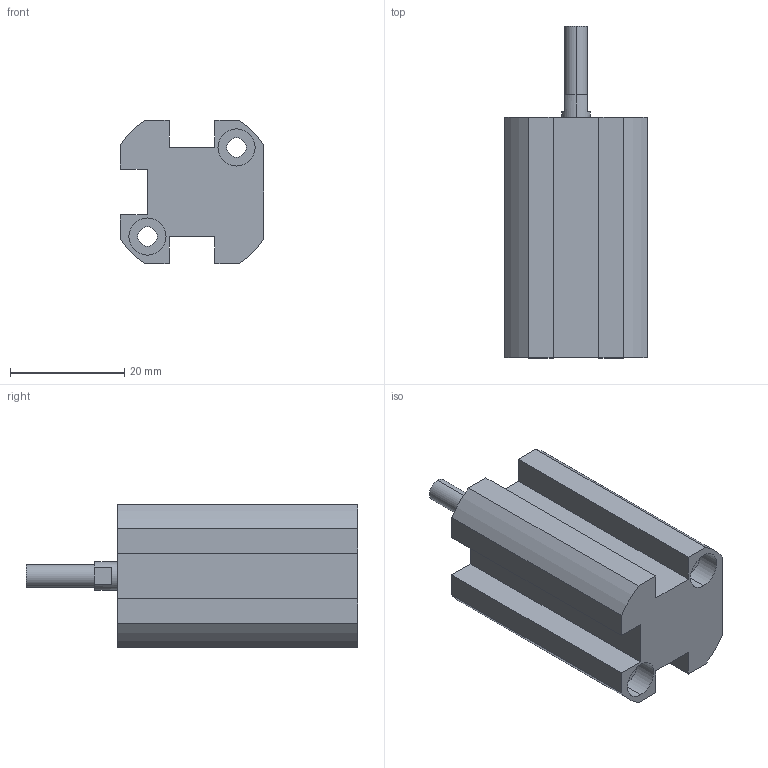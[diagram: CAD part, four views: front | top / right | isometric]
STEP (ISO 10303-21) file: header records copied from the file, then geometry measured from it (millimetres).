
FILE_DESCRIPTION (( 'STEP AP203' ), '1' );
FILE_NAME ('XG#M0-10D-10.STEP', '2016-05-24T02:02:19', ( '' ), ( '' ), 'SwSTEP 2.0', 'SolidWorks 2014', '' );
FILE_SCHEMA (( 'CONFIG_CONTROL_DESIGN' ));
Length unit declared in the file: millimetre
Products named in the file (1): XG#M0-10D-10
Bounding box: 25 x 58 x 25 mm (x, y, z)
Volume: 18938.6 mm3; surface area: 7480.5 mm2
Topology: 1 solids, 1 shells, 73 faces, 181 edges, 118 vertices
Faces by surface type: cylinder 37, plane 34, cone 2
Entity records: 2267 total; most frequent: DIRECTION 408, CARTESIAN_POINT 371, ORIENTED_EDGE 358, EDGE_CURVE 179, AXIS2_PLACEMENT_3D 155, VERTEX_POINT 118, LINE 98, VECTOR 98
